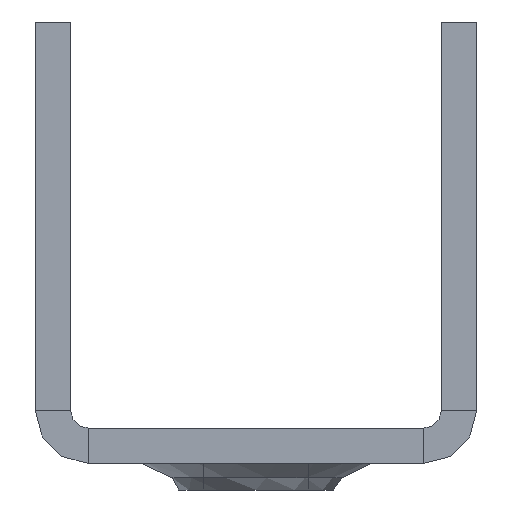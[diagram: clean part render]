
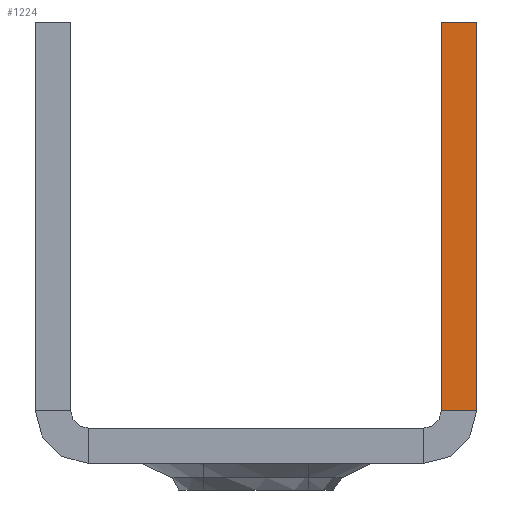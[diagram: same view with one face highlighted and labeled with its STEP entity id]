
A CAD part, front view. The second image highlights one B-rep face of the part: STEP entity #1224.
In plain terms, the highlighted planar face has unit normal (0, -1, 0).
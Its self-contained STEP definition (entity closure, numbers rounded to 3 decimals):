
#69=LINE('',#2114,#105);
#71=LINE('',#2117,#107);
#74=LINE('',#2125,#110);
#75=LINE('',#2126,#111);
#105=VECTOR('',#1769,22.);
#107=VECTOR('',#1773,2.);
#110=VECTOR('',#1784,22.);
#111=VECTOR('',#1785,2.);
#145=PLANE('',#1408);
#332=FACE_OUTER_BOUND('',#522,.T.);
#522=EDGE_LOOP('',(#1061,#1062,#1063,#1064));
#721=VERTEX_POINT('',#2097);
#726=VERTEX_POINT('',#2111);
#727=VERTEX_POINT('',#2113);
#728=VERTEX_POINT('',#2124);
#837=EDGE_CURVE('',#727,#726,#69,.T.);
#839=EDGE_CURVE('',#726,#721,#71,.T.);
#844=EDGE_CURVE('',#721,#728,#74,.T.);
#845=EDGE_CURVE('',#727,#728,#75,.T.);
#1061=ORIENTED_EDGE('',*,*,#839,.T.);
#1062=ORIENTED_EDGE('',*,*,#844,.T.);
#1063=ORIENTED_EDGE('',*,*,#845,.F.);
#1064=ORIENTED_EDGE('',*,*,#837,.T.);
#1224=ADVANCED_FACE('',(#332),#145,.T.);
#1408=AXIS2_PLACEMENT_3D('',#2123,#1782,#1783);
#1769=DIRECTION('',(0.,0.,-1.));
#1773=DIRECTION('',(1.,0.,0.));
#1782=DIRECTION('center_axis',(0.,-1.,0.));
#1783=DIRECTION('ref_axis',(1.,0.,0.));
#1784=DIRECTION('',(0.,0.,1.));
#1785=DIRECTION('',(1.,0.,0.));
#2097=CARTESIAN_POINT('',(12.5,-6000.,3.));
#2111=CARTESIAN_POINT('',(10.5,-6000.,3.));
#2113=CARTESIAN_POINT('',(10.5,-6000.,25.));
#2114=CARTESIAN_POINT('',(10.5,-6000.,-2.906));
#2117=CARTESIAN_POINT('',(10.94,-6000.,3.));
#2123=CARTESIAN_POINT('Origin',(10.5,-6000.,3.));
#2124=CARTESIAN_POINT('',(12.5,-6000.,25.));
#2125=CARTESIAN_POINT('',(12.5,-6000.,3.));
#2126=CARTESIAN_POINT('',(10.5,-6000.,25.));
